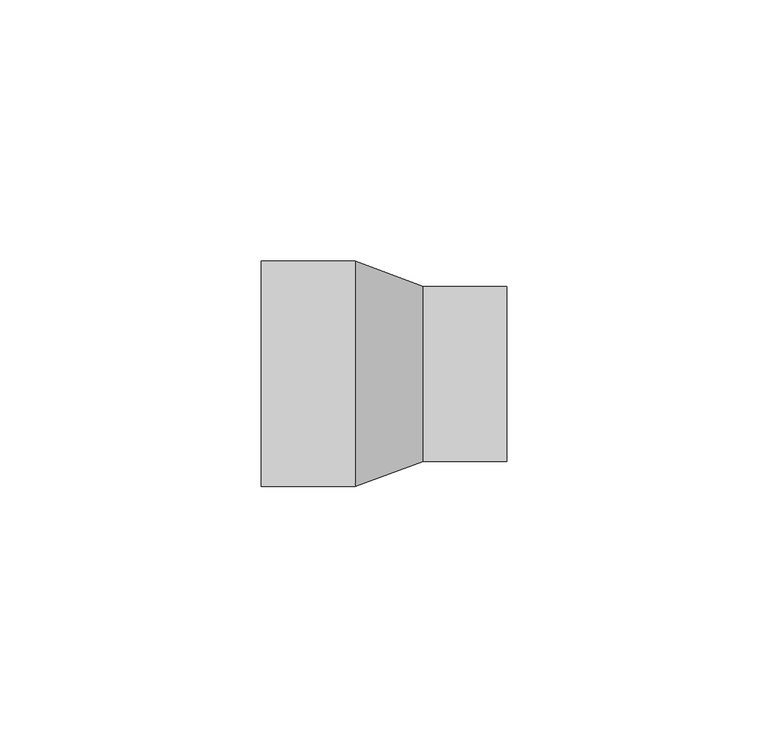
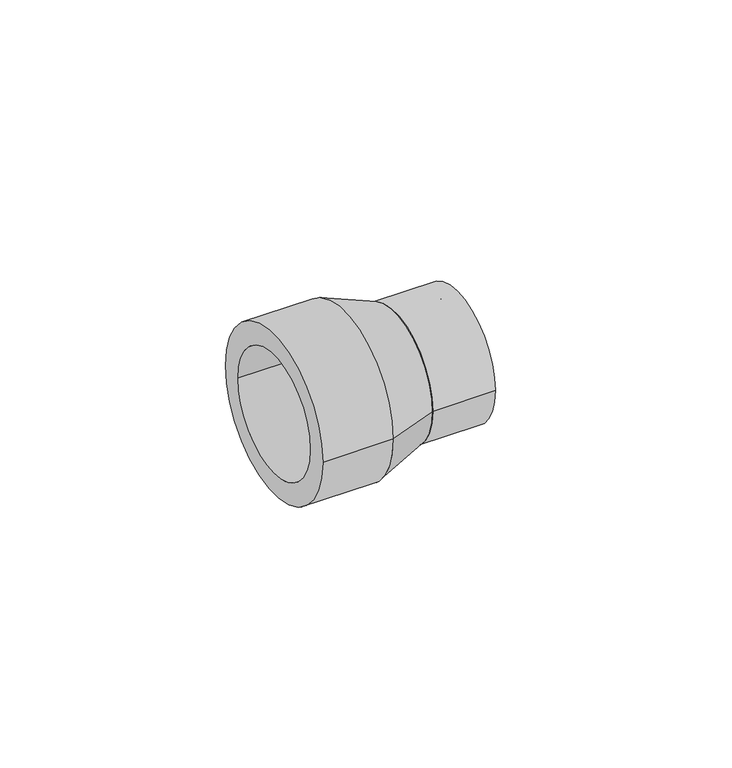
"""IFC4 building model written with IfcOpenShell, lengths in millimetres: pipe fitting geometry, 23_Муфта переходная ВВ : Белый цвет."""

from ifc_helpers import new_model, si_unit, point, frame, origin, origin_2d, place, context, project, spatial, polyline, circle_curve, trimmed, segment, composite_curve, outline, extrude, source, transform, mapped, element, save
from ifc_brep_helpers import plane_surface, revolved_surface, advanced_brep


def pipe_fitting_6d745625(model_context):
    return source(origin(), model_context, "Body", "SolidModel", [
        extrude(outline(composite_curve([segment(trimmed(circle_curve(origin_2d(), 16.75), [point((-16.75, 0.0))], [point((16.75, 0.0))], False, "CARTESIAN"), True, "CONTINUOUS"), segment(trimmed(circle_curve(origin_2d(), 16.75), [point((16.75, 0.0))], [point((-16.75, 0.0))], False, "CARTESIAN"), True, "CONTINUOUS")], self_intersect=False), holes=[composite_curve([segment(trimmed(circle_curve(origin_2d(), 12.5), [point((-12.5, 0.0))], [point((12.5, 0.0))], True, "CARTESIAN"), True, "CONTINUOUS"), segment(trimmed(circle_curve(origin_2d(), 12.5), [point((12.5, 0.0))], [point((-12.5, 0.0))], True, "CARTESIAN"), True, "CONTINUOUS")], self_intersect=False)]), frame((7.5, 0.0, 0.0), z_axis=(1.0, 0.0, 0.0), x_axis=(0.0, 1.0, 0.0)), (0.0, 0.0, 1.0), 16.0),
        extrude(outline(composite_curve([segment(trimmed(circle_curve(origin_2d(), 21.6), [point((-21.6, 0.0))], [point((21.6, 0.0))], False, "CARTESIAN"), True, "CONTINUOUS"), segment(trimmed(circle_curve(origin_2d(), 21.6), [point((21.6, 0.0))], [point((-21.6, 0.0))], False, "CARTESIAN"), True, "CONTINUOUS")], self_intersect=False), holes=[composite_curve([segment(trimmed(circle_curve(origin_2d(), 16.0), [point((-16.0, 0.0))], [point((16.0, 0.0))], True, "CARTESIAN"), True, "CONTINUOUS"), segment(trimmed(circle_curve(origin_2d(), 16.0), [point((16.0, 0.0))], [point((-16.0, 0.0))], True, "CARTESIAN"), True, "CONTINUOUS")], self_intersect=False)]), frame((-23.5, 0.0, 0.0), z_axis=(1.0, 0.0, 0.0), x_axis=(0.0, 1.0, 0.0)), (0.0, 0.0, 1.0), 18.0),
        advanced_brep(
        [(7.5, -16.75, 0.0), (7.5, 16.75, 0.0), (7.5, 12.5, 0.0), (7.5, -12.5, 0.0), (-5.5, -21.6, 0.0), (-5.5, 21.6, 0.0), (-5.5, -16.0, 0.0), (-5.5, 16.0, 0.0)],
        [
            (0, 1, circle_curve(frame((7.5, 0.0, 0.0), z_axis=(1.0, 0.0, 0.0), x_axis=(0.0, -1.0, 0.0)), 16.75)),
            (1, 0, circle_curve(frame((7.5, 0.0, 0.0), z_axis=(1.0, 0.0, 0.0), x_axis=(0.0, 1.0, 0.0)), 16.75)),
            (2, 3, circle_curve(frame((7.5, 0.0, 0.0), z_axis=(-1.0, 0.0, 0.0), x_axis=(0.0, -1.0, 0.0)), 12.5)),
            (3, 2, circle_curve(frame((7.5, 0.0, 0.0), z_axis=(-1.0, 0.0, 0.0), x_axis=(0.0, 1.0, 0.0)), 12.5)),
            (4, 5, circle_curve(frame((-5.5, 0.0, 0.0), z_axis=(-1.0, 0.0, 0.0), x_axis=(0.0, 1.0, 0.0)), 21.6)),
            (5, 4, circle_curve(frame((-5.5, 0.0, 0.0), z_axis=(-1.0, 0.0, 0.0), x_axis=(0.0, -1.0, 0.0)), 21.6)),
            (6, 7, circle_curve(frame((-5.5, 0.0, 0.0), z_axis=(1.0, 0.0, 0.0), x_axis=(0.0, -1.0, 0.0)), 16.0)),
            (7, 6, circle_curve(frame((-5.5, 0.0, 0.0), z_axis=(1.0, 0.0, 0.0), x_axis=(0.0, 1.0, 0.0)), 16.0)),
            (0, 4),
            (5, 1),
            (6, 3),
            (2, 7),
        ],
        [
            plane_surface(frame((7.5, 0.0, 0.0), z_axis=(1.0, 0.0, 0.0), x_axis=(0.0, 0.0, -1.0))),
            plane_surface(frame((-5.5, 0.0, 0.0), z_axis=(-1.0, 0.0, 0.0), x_axis=(0.0, 0.0, -1.0))),
            revolved_surface(polyline([(7.5, -16.749999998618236, 0.0), (-5.5, -21.6, 0.0)]), (52.3969072, 0.0, 0.0), (-1.0, 0.0, 0.0)),
            revolved_surface(polyline([(7.5, 16.749999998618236, 0.0), (-5.5, 21.6, 0.0)]), (52.3969072, 0.0, 0.0), (-1.0, 0.0, 0.0)),
            revolved_surface(polyline([(-5.5, -16.0, 0.0), (7.5, -12.499999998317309, 0.0)]), (53.9285714, 0.0, 0.0), (-1.0, 0.0, 0.0)),
        ],
        [
            (0, [[1, 2], [3, 4]]),
            (1, [[5, 6], [7, 8]]),
            (2, [[-1, 9, -6, 10]]),
            (3, [[-2, -10, -5, -9]]),
            (4, [[11, -3, 12, -7]]),
            (4, [[-11, -8, -12, -4]]),
        ],
    ),
    ])


if __name__ == "__main__":
    model = new_model("IFC4")
    model_context = context("Model", 3, world=origin())
    ifc_project = project(units=[si_unit("LENGTHUNIT", "METRE", prefix="MILLI")], contexts=[model_context])
    site = spatial("IfcSite", under=ifc_project)
    building = spatial("IfcBuilding", under=site)
    placement = place(None, origin())
    pipe_fitting_shape = pipe_fitting_6d745625(model_context)
    element("IfcPipeFitting", 1, ObjectType="23_Муфта переходная ВВ : Белый цвет", at=placement, inside=building, context=model_context, shape_type="MappedRepresentation", body=[
        mapped(pipe_fitting_shape, transform((0.0, 0.0, 0.0), x_axis=(1.0, 0.0, 0.0), y_axis=(0.0, 1.0, 0.0), z_axis=(0.0, 0.0, 1.0))),
    ])
    save(model, "model.ifc")
